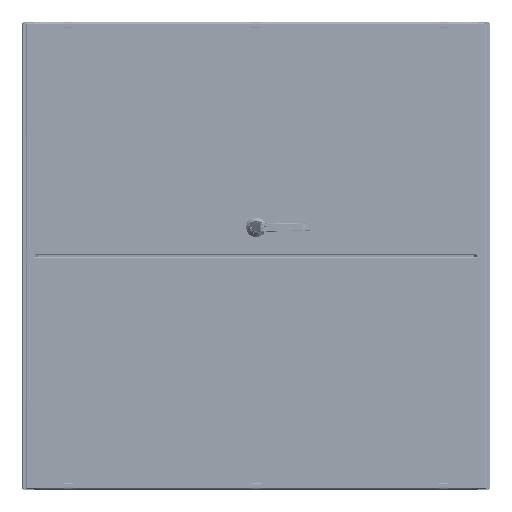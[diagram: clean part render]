
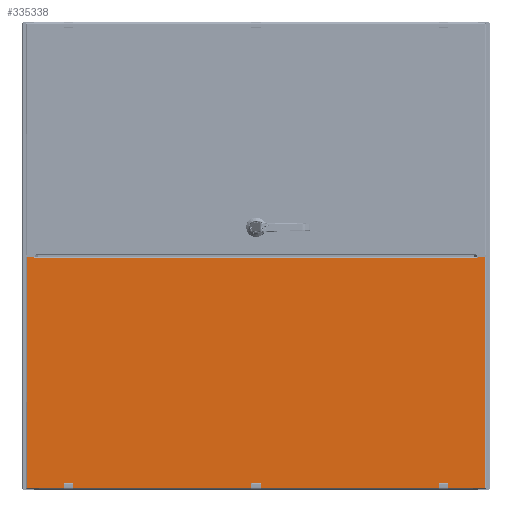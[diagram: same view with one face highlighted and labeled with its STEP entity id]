
A CAD part, top view. The second image highlights one B-rep face of the part: STEP entity #335338.
In plain terms, the highlighted planar face has unit normal (0, 0, 1) as drawn and (0, 1, 0) by its records, which use the part's own axes.
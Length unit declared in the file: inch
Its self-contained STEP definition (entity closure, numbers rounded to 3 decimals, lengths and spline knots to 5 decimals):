
#330389=DIRECTION('',(0.,0.,1.));
#330390=VECTOR('',#330389,23.68);
#330391=CARTESIAN_POINT('',(47.133,0.825,0.135));
#330392=LINE('',#330391,#330390);
#330706=DIRECTION('',(1.,0.,0.));
#330707=VECTOR('',#330706,45.437);
#330708=CARTESIAN_POINT('',(0.9065,0.825,0.252));
#330709=LINE('',#330708,#330707);
#330721=DIRECTION('',(0.,0.,-1.));
#330722=VECTOR('',#330721,0.3629);
#330723=CARTESIAN_POINT('',(43.22,0.825,23.815));
#330724=LINE('',#330723,#330722);
#330728=DIRECTION('',(-1.,0.,0.));
#330729=VECTOR('',#330728,0.63);
#330730=CARTESIAN_POINT('',(43.19,0.825,23.4221));
#330731=LINE('',#330730,#330729);
#330735=DIRECTION('',(0.,0.,-1.));
#330736=VECTOR('',#330735,0.3629);
#330737=CARTESIAN_POINT('',(42.53,0.825,23.815));
#330738=LINE('',#330737,#330736);
#330742=DIRECTION('',(0.,0.,-1.));
#330743=VECTOR('',#330742,0.3629);
#330744=CARTESIAN_POINT('',(23.97,0.825,23.815));
#330745=LINE('',#330744,#330743);
#330749=DIRECTION('',(-1.,0.,0.));
#330750=VECTOR('',#330749,0.63);
#330751=CARTESIAN_POINT('',(23.94,0.825,23.4221));
#330752=LINE('',#330751,#330750);
#330756=DIRECTION('',(0.,0.,-1.));
#330757=VECTOR('',#330756,0.3629);
#330758=CARTESIAN_POINT('',(23.28,0.825,23.815));
#330759=LINE('',#330758,#330757);
#330763=DIRECTION('',(0.,0.,-1.));
#330764=VECTOR('',#330763,0.3629);
#330765=CARTESIAN_POINT('',(4.72,0.825,23.815));
#330766=LINE('',#330765,#330764);
#330770=DIRECTION('',(-1.,0.,0.));
#330771=VECTOR('',#330770,0.63);
#330772=CARTESIAN_POINT('',(4.69,0.825,23.4221));
#330773=LINE('',#330772,#330771);
#330777=DIRECTION('',(0.,0.,-1.));
#330778=VECTOR('',#330777,0.3629);
#330779=CARTESIAN_POINT('',(4.03,0.825,23.815));
#330780=LINE('',#330779,#330778);
#330784=DIRECTION('',(-1.,0.,0.));
#330785=VECTOR('',#330784,0.73132);
#330786=CARTESIAN_POINT('',(0.84832,0.825,0.135));
#330787=LINE('',#330786,#330785);
#330791=DIRECTION('',(0.342,0.,0.94));
#330792=VECTOR('',#330791,0.12451);
#330793=CARTESIAN_POINT('',(0.84832,0.825,0.135));
#330794=LINE('',#330793,#330792);
#330798=DIRECTION('',(-1.,0.,0.));
#330799=VECTOR('',#330798,0.0156);
#330800=CARTESIAN_POINT('',(0.9065,0.825,0.252));
#330801=LINE('',#330800,#330799);
#330805=DIRECTION('',(1.,0.,0.));
#330806=VECTOR('',#330805,0.0156);
#330807=CARTESIAN_POINT('',(46.3435,0.825,0.252));
#330808=LINE('',#330807,#330806);
#330812=DIRECTION('',(-0.342,0.,0.94));
#330813=VECTOR('',#330812,0.12451);
#330814=CARTESIAN_POINT('',(46.40168,0.825,0.135));
#330815=LINE('',#330814,#330813);
#330819=DIRECTION('',(-1.,0.,0.));
#330820=VECTOR('',#330819,0.73132);
#330821=CARTESIAN_POINT('',(47.133,0.825,0.135));
#330822=LINE('',#330821,#330820);
#330834=DIRECTION('',(-1.,0.,0.));
#330835=VECTOR('',#330834,18.56);
#330836=CARTESIAN_POINT('',(42.53,0.825,23.815));
#330837=LINE('',#330836,#330835);
#330879=DIRECTION('',(-1.,0.,0.));
#330880=VECTOR('',#330879,18.56);
#330881=CARTESIAN_POINT('',(23.28,0.825,23.815));
#330882=LINE('',#330881,#330880);
#330921=DIRECTION('',(-1.,0.,0.));
#330922=VECTOR('',#330921,3.913);
#330923=CARTESIAN_POINT('',(4.03,0.825,23.815));
#330924=LINE('',#330923,#330922);
#330993=DIRECTION('',(-1.,0.,0.));
#330994=VECTOR('',#330993,3.913);
#330995=CARTESIAN_POINT('',(47.133,0.825,23.815));
#330996=LINE('',#330995,#330994);
#331014=CARTESIAN_POINT('',(23.94,0.825,23.4521));
#331015=DIRECTION('',(0.,-1.,0.));
#331016=DIRECTION('',(0.,0.,-1.));
#331017=AXIS2_PLACEMENT_3D('',#331014,#331015,#331016);
#331044=CARTESIAN_POINT('',(23.31,0.825,23.4521));
#331045=DIRECTION('',(0.,-1.,0.));
#331046=DIRECTION('',(-1.,0.,0.));
#331047=AXIS2_PLACEMENT_3D('',#331044,#331045,#331046);
#332776=CARTESIAN_POINT('',(43.19,0.825,23.4521));
#332777=DIRECTION('',(0.,-1.,0.));
#332778=DIRECTION('',(0.,0.,-1.));
#332779=AXIS2_PLACEMENT_3D('',#332776,#332777,#332778);
#332806=CARTESIAN_POINT('',(42.56,0.825,23.4521));
#332807=DIRECTION('',(0.,-1.,0.));
#332808=DIRECTION('',(-1.,0.,0.));
#332809=AXIS2_PLACEMENT_3D('',#332806,#332807,#332808);
#332896=CARTESIAN_POINT('',(4.06,0.825,23.4521));
#332897=DIRECTION('',(0.,-1.,0.));
#332898=DIRECTION('',(-1.,0.,0.));
#332899=AXIS2_PLACEMENT_3D('',#332896,#332897,#332898);
#332926=CARTESIAN_POINT('',(4.69,0.825,23.4521));
#332927=DIRECTION('',(0.,-1.,0.));
#332928=DIRECTION('',(0.,0.,-1.));
#332929=AXIS2_PLACEMENT_3D('',#332926,#332927,#332928);
#332942=DIRECTION('',(0.,0.,1.));
#332943=VECTOR('',#332942,23.68);
#332944=CARTESIAN_POINT('',(0.117,0.825,0.135));
#332945=LINE('',#332944,#332943);
#333110=CARTESIAN_POINT('',(46.3435,0.825,0.252));
#333111=CARTESIAN_POINT('',(46.3591,0.825,0.252));
#333112=VERTEX_POINT('',#333110);
#333113=VERTEX_POINT('',#333111);
#333114=CARTESIAN_POINT('',(46.40168,0.825,0.135));
#333115=VERTEX_POINT('',#333114);
#333122=CARTESIAN_POINT('',(47.133,0.825,0.135));
#333123=VERTEX_POINT('',#333122);
#333126=CARTESIAN_POINT('',(0.9065,0.825,0.252));
#333127=CARTESIAN_POINT('',(0.8909,0.825,0.252));
#333128=VERTEX_POINT('',#333126);
#333129=VERTEX_POINT('',#333127);
#333130=CARTESIAN_POINT('',(0.84832,0.825,0.135));
#333131=VERTEX_POINT('',#333130);
#333138=CARTESIAN_POINT('',(0.117,0.825,0.135));
#333139=VERTEX_POINT('',#333138);
#333501=CARTESIAN_POINT('',(0.117,0.825,23.815));
#333502=VERTEX_POINT('',#333501);
#333507=CARTESIAN_POINT('',(47.133,0.825,23.815));
#333509=VERTEX_POINT('',#333507);
#333562=CARTESIAN_POINT('',(4.03,0.825,23.815));
#333564=VERTEX_POINT('',#333562);
#333566=CARTESIAN_POINT('',(4.72,0.825,23.815));
#333568=VERTEX_POINT('',#333566);
#333578=CARTESIAN_POINT('',(42.53,0.825,23.815));
#333580=VERTEX_POINT('',#333578);
#333582=CARTESIAN_POINT('',(43.22,0.825,23.815));
#333584=VERTEX_POINT('',#333582);
#333594=CARTESIAN_POINT('',(23.97,0.825,23.815));
#333596=VERTEX_POINT('',#333594);
#333598=CARTESIAN_POINT('',(23.28,0.825,23.815));
#333600=VERTEX_POINT('',#333598);
#333625=CARTESIAN_POINT('',(4.03,0.825,23.4521));
#333627=VERTEX_POINT('',#333625);
#333629=CARTESIAN_POINT('',(4.06,0.825,23.4221));
#333631=VERTEX_POINT('',#333629);
#333633=CARTESIAN_POINT('',(4.69,0.825,23.4221));
#333635=VERTEX_POINT('',#333633);
#333637=CARTESIAN_POINT('',(4.72,0.825,23.4521));
#333639=VERTEX_POINT('',#333637);
#333657=CARTESIAN_POINT('',(43.19,0.825,23.4221));
#333659=VERTEX_POINT('',#333657);
#333661=CARTESIAN_POINT('',(43.22,0.825,23.4521));
#333663=VERTEX_POINT('',#333661);
#333665=CARTESIAN_POINT('',(42.53,0.825,23.4521));
#333667=VERTEX_POINT('',#333665);
#333669=CARTESIAN_POINT('',(42.56,0.825,23.4221));
#333671=VERTEX_POINT('',#333669);
#333673=CARTESIAN_POINT('',(23.28,0.825,23.4521));
#333675=VERTEX_POINT('',#333673);
#333677=CARTESIAN_POINT('',(23.31,0.825,23.4221));
#333679=VERTEX_POINT('',#333677);
#333681=CARTESIAN_POINT('',(23.94,0.825,23.4221));
#333683=VERTEX_POINT('',#333681);
#333685=CARTESIAN_POINT('',(23.97,0.825,23.4521));
#333687=VERTEX_POINT('',#333685);
#335283=CARTESIAN_POINT('',(47.25,0.825,0.));
#335284=DIRECTION('',(0.,1.,0.));
#335285=DIRECTION('',(-1.,0.,0.));
#335286=AXIS2_PLACEMENT_3D('',#335283,#335284,#335285);
#335287=PLANE('',#335286);
#335288=ORIENTED_EDGE('',*,*,#334899,.T.);
#335290=ORIENTED_EDGE('',*,*,#335289,.T.);
#335292=ORIENTED_EDGE('',*,*,#335291,.T.);
#335294=ORIENTED_EDGE('',*,*,#335293,.F.);
#335296=ORIENTED_EDGE('',*,*,#335295,.T.);
#335298=ORIENTED_EDGE('',*,*,#335297,.F.);
#335300=ORIENTED_EDGE('',*,*,#335299,.F.);
#335302=ORIENTED_EDGE('',*,*,#335301,.T.);
#335304=ORIENTED_EDGE('',*,*,#335303,.T.);
#335306=ORIENTED_EDGE('',*,*,#335305,.F.);
#335308=ORIENTED_EDGE('',*,*,#335307,.T.);
#335310=ORIENTED_EDGE('',*,*,#335309,.F.);
#335312=ORIENTED_EDGE('',*,*,#335311,.F.);
#335314=ORIENTED_EDGE('',*,*,#335313,.T.);
#335316=ORIENTED_EDGE('',*,*,#335315,.T.);
#335318=ORIENTED_EDGE('',*,*,#335317,.F.);
#335320=ORIENTED_EDGE('',*,*,#335319,.T.);
#335322=ORIENTED_EDGE('',*,*,#335321,.F.);
#335324=ORIENTED_EDGE('',*,*,#335323,.F.);
#335326=ORIENTED_EDGE('',*,*,#335325,.T.);
#335328=ORIENTED_EDGE('',*,*,#335327,.F.);
#335329=ORIENTED_EDGE('',*,*,#335110,.F.);
#335330=ORIENTED_EDGE('',*,*,#335276,.T.);
#335331=ORIENTED_EDGE('',*,*,#335274,.F.);
#335332=ORIENTED_EDGE('',*,*,#335223,.T.);
#335333=ORIENTED_EDGE('',*,*,#335204,.T.);
#335334=ORIENTED_EDGE('',*,*,#335202,.F.);
#335335=ORIENTED_EDGE('',*,*,#335098,.F.);
#335336=EDGE_LOOP('',(#335288,#335290,#335292,#335294,#335296,#335298,#335300,
#335302,#335304,#335306,#335308,#335310,#335312,#335314,#335316,#335318,#335320,
#335322,#335324,#335326,#335328,#335329,#335330,#335331,#335332,#335333,#335334,
#335335));
#335337=FACE_OUTER_BOUND('',#335336,.F.);
#331018=CIRCLE('',#331017,0.03);
#331048=CIRCLE('',#331047,0.03);
#332780=CIRCLE('',#332779,0.03);
#332810=CIRCLE('',#332809,0.03);
#332900=CIRCLE('',#332899,0.03);
#332930=CIRCLE('',#332929,0.03);
#334899=EDGE_CURVE('',#333123,#333509,#330392,.T.);
#335098=EDGE_CURVE('',#333123,#333115,#330822,.T.);
#335110=EDGE_CURVE('',#333131,#333139,#330787,.T.);
#335202=EDGE_CURVE('',#333115,#333113,#330815,.T.);
#335204=EDGE_CURVE('',#333112,#333113,#330808,.T.);
#335223=EDGE_CURVE('',#333128,#333112,#330709,.T.);
#335274=EDGE_CURVE('',#333128,#333129,#330801,.T.);
#335276=EDGE_CURVE('',#333131,#333129,#330794,.T.);
#335289=EDGE_CURVE('',#333509,#333584,#330996,.T.);
#335291=EDGE_CURVE('',#333584,#333663,#330724,.T.);
#335293=EDGE_CURVE('',#333659,#333663,#332780,.T.);
#335295=EDGE_CURVE('',#333659,#333671,#330731,.T.);
#335297=EDGE_CURVE('',#333667,#333671,#332810,.T.);
#335299=EDGE_CURVE('',#333580,#333667,#330738,.T.);
#335301=EDGE_CURVE('',#333580,#333596,#330837,.T.);
#335303=EDGE_CURVE('',#333596,#333687,#330745,.T.);
#335305=EDGE_CURVE('',#333683,#333687,#331018,.T.);
#335307=EDGE_CURVE('',#333683,#333679,#330752,.T.);
#335309=EDGE_CURVE('',#333675,#333679,#331048,.T.);
#335311=EDGE_CURVE('',#333600,#333675,#330759,.T.);
#335313=EDGE_CURVE('',#333600,#333568,#330882,.T.);
#335315=EDGE_CURVE('',#333568,#333639,#330766,.T.);
#335317=EDGE_CURVE('',#333635,#333639,#332930,.T.);
#335319=EDGE_CURVE('',#333635,#333631,#330773,.T.);
#335321=EDGE_CURVE('',#333627,#333631,#332900,.T.);
#335323=EDGE_CURVE('',#333564,#333627,#330780,.T.);
#335325=EDGE_CURVE('',#333564,#333502,#330924,.T.);
#335327=EDGE_CURVE('',#333139,#333502,#332945,.T.);
#335338=ADVANCED_FACE('',(#335337),#335287,.T.);
